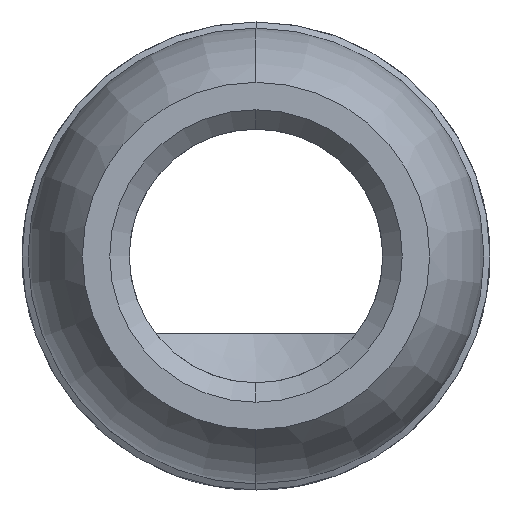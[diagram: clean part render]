
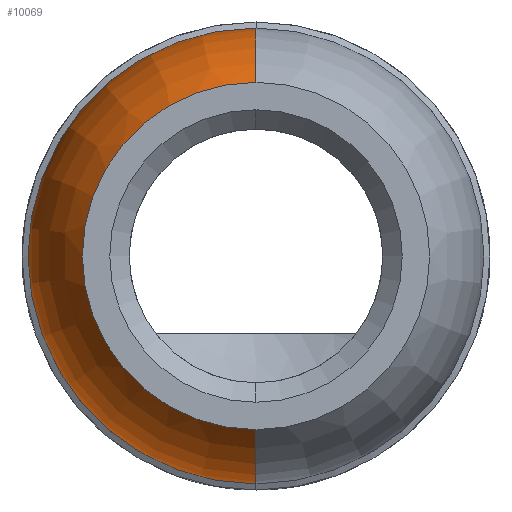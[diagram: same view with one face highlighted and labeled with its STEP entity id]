
A CAD part, left-side view. The second image highlights one B-rep face of the part: STEP entity #10069.
In plain terms, the highlighted toroidal (fillet/blend) face has major radius 0.006 mm and minor radius 9.271 mm.
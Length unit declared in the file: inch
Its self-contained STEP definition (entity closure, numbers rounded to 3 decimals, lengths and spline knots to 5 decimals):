
#11 = CARTESIAN_POINT ( 'NONE',  ( 0.2365, 0., -0.00024 ) ) ;
#39 = ORIENTED_EDGE ( 'NONE', *, *, #6662, .T. ) ;
#501 = ORIENTED_EDGE ( 'NONE', *, *, #9833, .F. ) ;
#679 = DIRECTION ( 'NONE',  ( -1., 0., 0. ) ) ;
#1216 = CARTESIAN_POINT ( 'NONE',  ( 0.2365, 0., 0. ) ) ;
#1391 = CARTESIAN_POINT ( 'NONE',  ( 0.2375, 0., 0.36524 ) ) ;
#2452 = AXIS2_PLACEMENT_3D ( 'NONE', #2963, #10248, #4027 ) ;
#2546 = CARTESIAN_POINT ( 'NONE',  ( 0.2375, 0., 0. ) ) ;
#2963 = CARTESIAN_POINT ( 'NONE',  ( 0.2365, 0., 0.00024 ) ) ;
#2983 = CARTESIAN_POINT ( 'NONE',  ( 0., 0., -0.27825 ) ) ;
#3191 = DIRECTION ( 'NONE',  ( 0., 0., 1. ) ) ;
#3377 = VERTEX_POINT ( 'NONE', #1391 ) ;
#3508 = EDGE_LOOP ( 'NONE', ( #39, #3863, #501, #6095 ) ) ;
#3757 = AXIS2_PLACEMENT_3D ( 'NONE', #2546, #12986, #9881 ) ;
#3805 = CARTESIAN_POINT ( 'NONE',  ( 0., 0., 0. ) ) ;
#3863 = ORIENTED_EDGE ( 'NONE', *, *, #11741, .T. ) ;
#4027 = DIRECTION ( 'NONE',  ( 0., 0., -1. ) ) ;
#5331 = VERTEX_POINT ( 'NONE', #2983 ) ;
#5879 = DIRECTION ( 'NONE',  ( 0., 0., 1. ) ) ;
#6063 = CARTESIAN_POINT ( 'NONE',  ( 0.2375, 0., -0.36524 ) ) ;
#6095 = ORIENTED_EDGE ( 'NONE', *, *, #10668, .F. ) ;
#6467 = VERTEX_POINT ( 'NONE', #6063 ) ;
#6503 = DIRECTION ( 'NONE',  ( -1., 0., 0. ) ) ;
#6662 = EDGE_CURVE ( 'NONE', #3377, #6467, #12755, .T. ) ;
#7132 = FACE_OUTER_BOUND ( 'NONE', #3508, .T. ) ;
#7742 = AXIS2_PLACEMENT_3D ( 'NONE', #11, #11759, #11625 ) ;
#8730 = CIRCLE ( 'NONE', #7742, 0.365 ) ;
#9364 = VERTEX_POINT ( 'NONE', #13495 ) ;
#9742 = AXIS2_PLACEMENT_3D ( 'NONE', #3805, #679, #5879 ) ;
#9833 = EDGE_CURVE ( 'NONE', #9364, #5331, #11229, .T. ) ;
#9881 = DIRECTION ( 'NONE',  ( 0., 0., 1. ) ) ;
#10005 = AXIS2_PLACEMENT_3D ( 'NONE', #1216, #6503, #3191 ) ;
#10069 = ADVANCED_FACE ( 'NONE', ( #7132 ), #11578, .T. ) ;
#10248 = DIRECTION ( 'NONE',  ( 0., -1., 0. ) ) ;
#10668 = EDGE_CURVE ( 'NONE', #3377, #9364, #13374, .T. ) ;
#11229 = CIRCLE ( 'NONE', #9742, 0.27825 ) ;
#11578 = TOROIDAL_SURFACE ( 'NONE', #10005, 0.00024, 0.365 ) ;
#11625 = DIRECTION ( 'NONE',  ( 0., 0., 1. ) ) ;
#11741 = EDGE_CURVE ( 'NONE', #6467, #5331, #8730, .T. ) ;
#11759 = DIRECTION ( 'NONE',  ( 0., 1., 0. ) ) ;
#12755 = CIRCLE ( 'NONE', #3757, 0.36524 ) ;
#12986 = DIRECTION ( 'NONE',  ( -1., 0., 0. ) ) ;
#13374 = CIRCLE ( 'NONE', #2452, 0.365 ) ;
#13495 = CARTESIAN_POINT ( 'NONE',  ( 0., 0., 0.27825 ) ) ;
